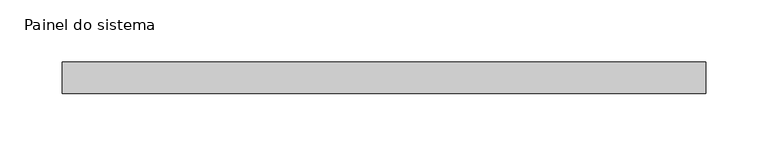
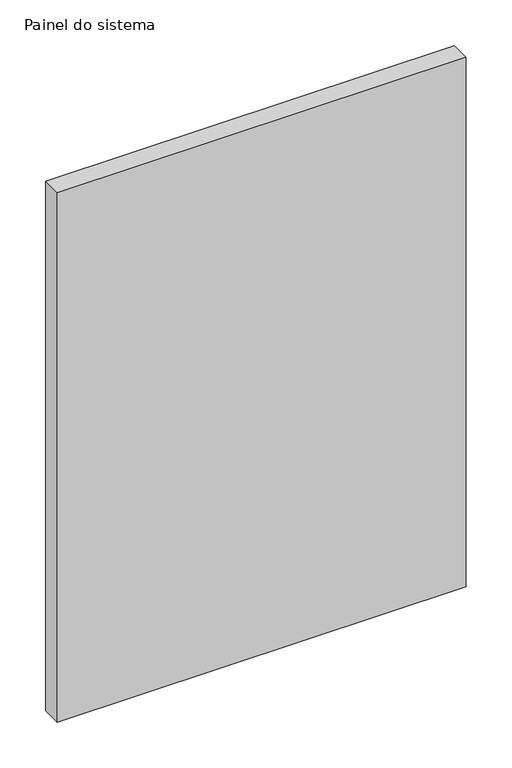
"""IFC4 building model written with IfcOpenShell, lengths in millimetres: plate geometry, Painel do sistema : Envidraçado."""

from ifc_helpers import new_model, si_unit, origin, origin_with_axes, place, context, project, spatial, polyline, outline, extrude, source, transform, mapped, element, save


def painel_do_sistema_288a4548(model_context):
    return source(origin(), model_context, "Body", "SweptSolid", [
        extrude(outline(polyline([(257.5, -49.5), (-257.5, -49.5), (-257.5, -24.5), (257.5, -24.5), (257.5, -49.5)])), origin_with_axes(), (0.0, 0.0, 1.0), 705.0),
    ])


if __name__ == "__main__":
    model = new_model("IFC4")
    model_context = context("Model", 3, world=origin())
    ifc_project = project(units=[si_unit("LENGTHUNIT", "METRE", prefix="MILLI")], contexts=[model_context])
    site = spatial("IfcSite", under=ifc_project)
    building = spatial("IfcBuilding", under=site)
    placement = place(None, origin())
    painel_do_sistema_shape = painel_do_sistema_288a4548(model_context)
    element("IfcPlate", 1, ObjectType="Painel do sistema : Envidraçado", at=placement, inside=building, context=model_context, shape_type="MappedRepresentation", body=[
        mapped(painel_do_sistema_shape, transform((0.0, 0.0, 0.0), x_axis=(1.0, 0.0, 0.0), y_axis=(0.0, 1.0, 0.0), z_axis=(0.0, 0.0, 1.0))),
    ])
    save(model, "model.ifc")
